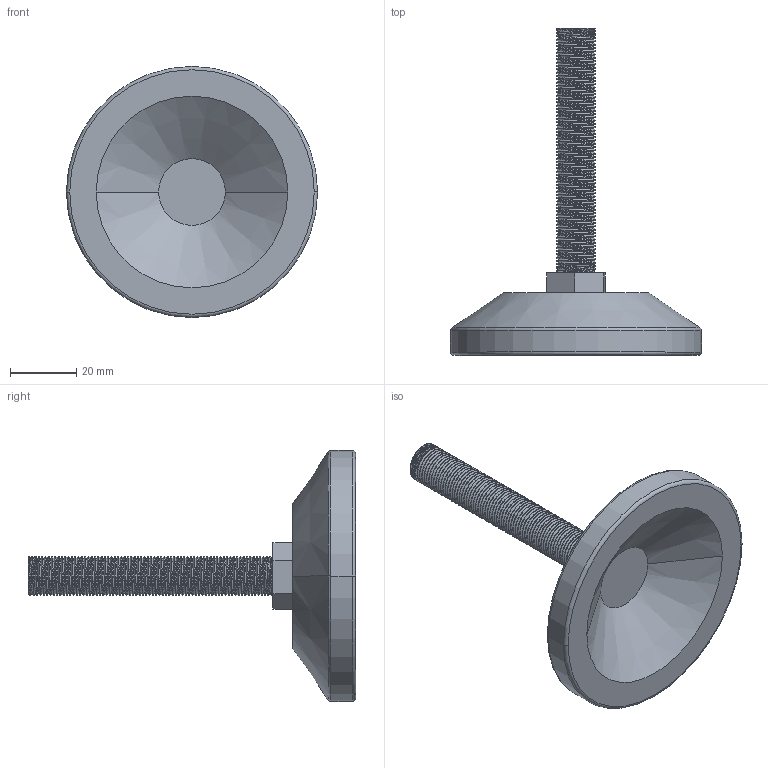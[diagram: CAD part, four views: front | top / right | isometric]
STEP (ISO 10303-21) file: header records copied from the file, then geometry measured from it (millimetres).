
FILE_DESCRIPTION (( 'STEP AP203' ), '1' );
FILE_NAME ('229-CE-UAFS-12.STEP', '2015-07-09T09:32:47', ( '' ), ( '' ), 'SwSTEP 2.0', 'SolidWorks 2013', '' );
FILE_SCHEMA (( 'CONFIG_CONTROL_DESIGN' ));
Length unit declared in the file: millimetre
Products named in the file (1): 229-CE-UAFS-12
Bounding box: 76 x 99 x 76 mm (x, y, z)
Volume: 60511.7 mm3; surface area: 17078.3 mm2
Topology: 1 solids, 1 shells, 174 faces, 501 edges, 332 vertices
Faces by surface type: cylinder 151, plane 12, torus 4, cone 4, bspline 3
Entity records: 14193 total; most frequent: CARTESIAN_POINT 10452, ORIENTED_EDGE 1002, DIRECTION 559, EDGE_CURVE 501, VERTEX_POINT 332, AXIS2_PLACEMENT_3D 192, EDGE_LOOP 177, VECTOR 175
